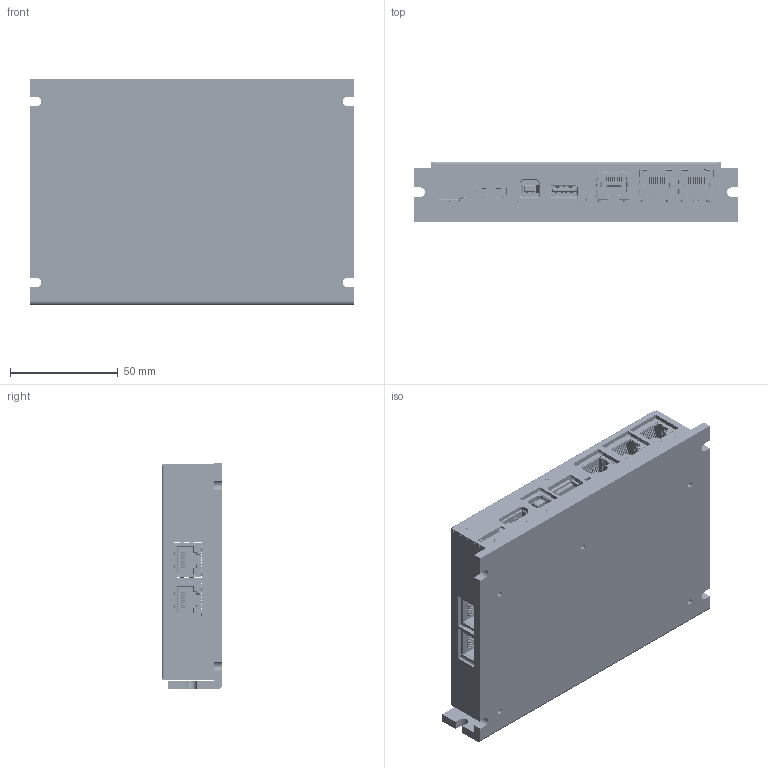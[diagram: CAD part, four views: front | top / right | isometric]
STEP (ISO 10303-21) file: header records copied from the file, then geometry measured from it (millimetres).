
FILE_DESCRIPTION (( 'STEP AP203' ), '1' );
FILE_NAME ('PLATINUM MAESTRO.STEP', '2016-07-20T12:17:31', ( 'YAEL' ), ( 'Microsoft' ), 'SwSTEP 2.0', 'SolidWorks 2013', '' );
FILE_SCHEMA (( 'CONFIG_CONTROL_DESIGN' ));
Products named in the file (17): PCB1_SUPER MAS - 2 VER2_V02; Pheonix_MC 1,5  3-G-3,81_1803280; MD-00760A; RB1-2X5B-10PIN; MD-00800A; conn_MODS-C-8P8C-X-S1; MD-00763A; TYCO_c-1932258-1-a-3d; MD-00762A; led_kpba-3010; flat head screw_am_B18.6.7M - M3 x 0.5 x 5 Type I Cross Recessed FHMS --5N; 005138008010; PLATINUM MAESTRO; hdmi_asm; RJ45_C-6-6605457-4; HDAR-6U19-BKHCX-3F_GT23-210135; USB-B-S-X-X-TH
Assembly tree (29 placements, depth 3):
  PLATINUM MAESTRO
    PCB1_SUPER MAS - 2 VER2_V02
      RJ45_C-6-6605457-4  x4
      USB-B-S-X-X-TH
      Pheonix_MC 1,5  3-G-3,81_1803280
      RB1-2X5B-10PIN
      conn_MODS-C-8P8C-X-S1  x2
      TYCO_c-1932258-1-a-3d
      led_kpba-3010  x2
      005138008010
      hdmi_asm
      HDAR-6U19-BKHCX-3F_GT23-210135
    MD-00760A
    MD-00800A
    MD-00763A  x5
    MD-00762A
    flat head screw_am_B18.6.7M - M3 x 0.5 x 5 Type I Cross Recessed FHMS --5N  x5
Bounding box: 150.5 x 28 x 105 mm (x, y, z)
Volume: 117122.5 mm3; surface area: 114113.8 mm2
Topology: 26 solids, 109 shells, 10705 faces, 29574 edges, 19349 vertices
Faces by surface type: plane 7964, cylinder 1785, bspline 858, cone 84, torus 14
Full cylindrical faces by diameter (mm): 0.124 x4, 0.2 x5, 0.25 x1, 0.3 x3, 0.35 x1, 0.5 x29, 0.6 x4, 0.65 x5, 0.85 x10, 2.5 x12, 3 x10, 3.15 x2, 4.6 x4, 5.5 x5
Entity records: 342787 total; most frequent: CARTESIAN_POINT 109304, ORIENTED_EDGE 51531, DIRECTION 41555, EDGE_CURVE 25880, LINE 20609, VECTOR 20609, VERTEX_POINT 17006, AXIS2_PLACEMENT_3D 10473
